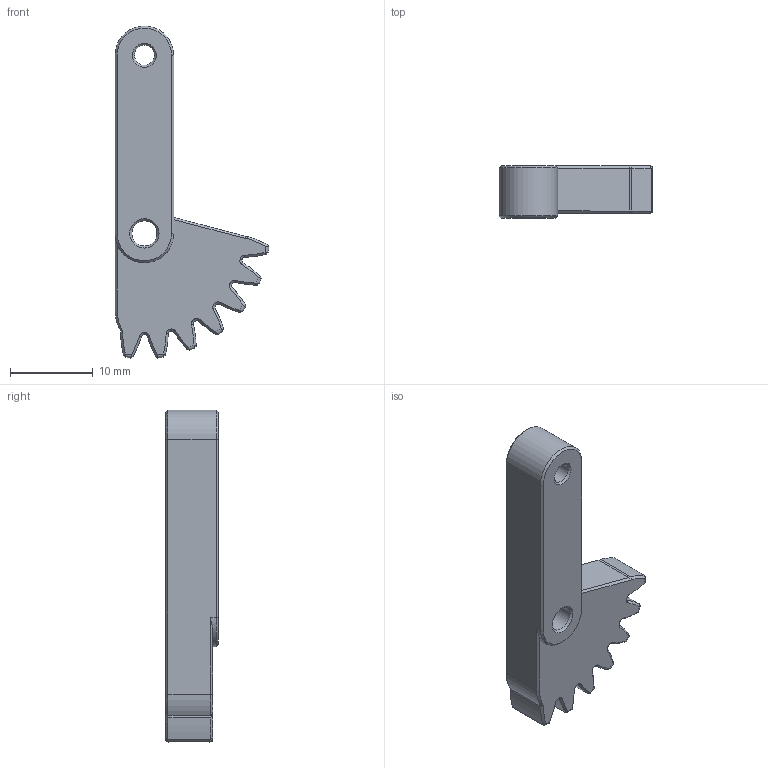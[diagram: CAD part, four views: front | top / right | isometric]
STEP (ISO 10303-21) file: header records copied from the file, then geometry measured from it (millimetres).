
FILE_DESCRIPTION(/* description */ ('STEP AP242','CAx-IF Rec.Pracs.---Representation and Presentation of Product Manufacturing Information (PMI)---4.0---2014-10-13','CAx-IF Rec.Pracs.---3D Tessellated Geometry---0.4---2014-09-14','2;1'),/* implementation_level */ '2;1');
FILE_NAME(/* name */ '6367aa310f60637f9a1af1ec',/* time_stamp */ '2022-11-06T12:36:02+00:00',/* author */ (''),/* organization */ (''),/* preprocessor_version */ 'ST-DEVELOPER v18.102',/* originating_system */ ' ',/* authorisation */ ' ');
FILE_SCHEMA (('AP242_MANAGED_MODEL_BASED_3D_ENGINEERING_MIM_LF { 1 0 10303 442 1 1 4 }'));
Length unit declared in the file: metre
Products named in the file (1): Gear Arm Left
Bounding box: 18.66 x 6.35 x 40.25 mm (x, y, z)
Volume: 2213.9 mm3; surface area: 1563.8 mm2
Topology: 1 solids, 1 shells, 189 faces, 441 edges, 254 vertices
Faces by surface type: cone 72, cylinder 44, plane 31, bspline 28, torus 14
Full cylindrical faces by diameter (mm): 2.413 x1, 3.048 x1
Entity records: 5555 total; most frequent: CARTESIAN_POINT 1464, ORIENTED_EDGE 872, DIRECTION 815, EDGE_CURVE 436, AXIS2_PLACEMENT_3D 337, VERTEX_POINT 254, EDGE_LOOP 198, FACE_BOUND 198
